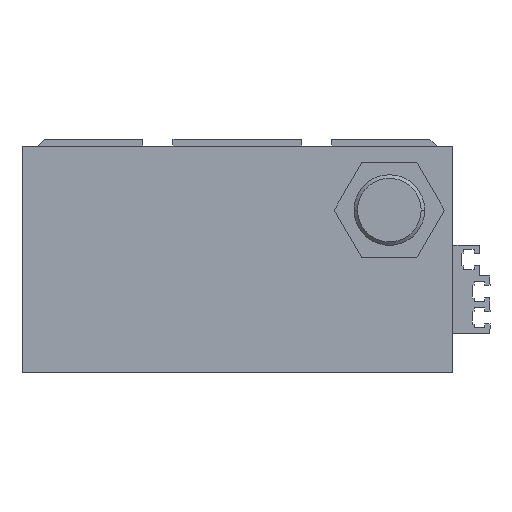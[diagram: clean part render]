
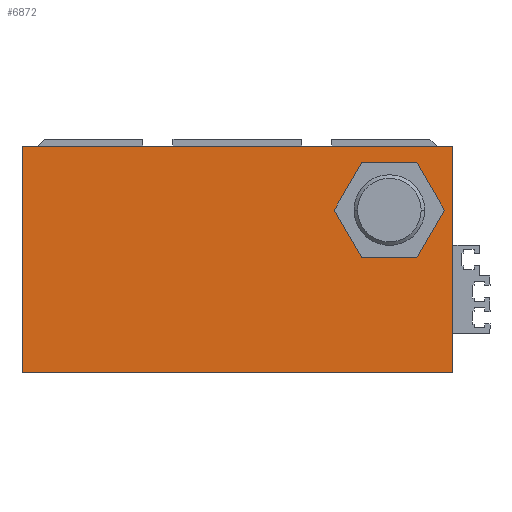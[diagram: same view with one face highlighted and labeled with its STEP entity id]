
A CAD part, front view. The second image highlights one B-rep face of the part: STEP entity #6872.
In plain terms, the highlighted planar face has unit normal (0, -1, 0).
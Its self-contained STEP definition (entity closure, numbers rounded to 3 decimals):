
#2399=CARTESIAN_POINT('',(35.206,0.,32.5));
#2400=VERTEX_POINT('',#2399);
#2407=CARTESIAN_POINT('',(50.794,0.,32.5));
#2408=VERTEX_POINT('',#2407);
#2409=CARTESIAN_POINT('',(50.794,0.,32.5));
#2410=DIRECTION('',(-1.0,0.0,0.0));
#2411=VECTOR('',#2410,15.588);
#2412=LINE('',#2409,#2411);
#2413=EDGE_CURVE('',#2408,#2400,#2412,.T.);
#2430=CARTESIAN_POINT('',(27.412,0.,46.));
#2431=VERTEX_POINT('',#2430);
#2438=CARTESIAN_POINT('',(35.206,0.,32.5));
#2439=DIRECTION('',(-0.5,0.,0.866));
#2440=VECTOR('',#2439,15.588);
#2441=LINE('',#2438,#2440);
#2442=EDGE_CURVE('',#2400,#2431,#2441,.T.);
#2454=CARTESIAN_POINT('',(35.206,0.,59.5));
#2455=VERTEX_POINT('',#2454);
#2462=CARTESIAN_POINT('',(27.412,0.,46.));
#2463=DIRECTION('',(0.5,0.,0.866));
#2464=VECTOR('',#2463,15.588);
#2465=LINE('',#2462,#2464);
#2466=EDGE_CURVE('',#2431,#2455,#2465,.T.);
#2478=CARTESIAN_POINT('',(50.794,0.,59.5));
#2479=VERTEX_POINT('',#2478);
#2486=CARTESIAN_POINT('',(35.206,0.,59.5));
#2487=DIRECTION('',(1.0,0.0,0.0));
#2488=VECTOR('',#2487,15.588);
#2489=LINE('',#2486,#2488);
#2490=EDGE_CURVE('',#2455,#2479,#2489,.T.);
#2502=CARTESIAN_POINT('',(58.588,0.,46.0));
#2503=VERTEX_POINT('',#2502);
#2510=CARTESIAN_POINT('',(50.794,0.,59.5));
#2511=DIRECTION('',(0.5,0.,-0.866));
#2512=VECTOR('',#2511,15.588);
#2513=LINE('',#2510,#2512);
#2514=EDGE_CURVE('',#2479,#2503,#2513,.T.);
#2527=CARTESIAN_POINT('',(58.588,0.,46.0));
#2528=DIRECTION('',(-0.5,0.,-0.866));
#2529=VECTOR('',#2528,15.588);
#2530=LINE('',#2527,#2529);
#2531=EDGE_CURVE('',#2503,#2408,#2530,.T.);
#2838=CARTESIAN_POINT('',(61.,0.0,0.0));
#2839=VERTEX_POINT('',#2838);
#2840=CARTESIAN_POINT('',(61.,0.,64.0));
#2841=VERTEX_POINT('',#2840);
#2842=CARTESIAN_POINT('',(61.,0.0,0.0));
#2843=DIRECTION('',(0.0,0.0,1.0));
#2844=VECTOR('',#2843,64.0);
#2845=LINE('',#2842,#2844);
#2846=EDGE_CURVE('',#2839,#2841,#2845,.T.);
#2987=CARTESIAN_POINT('',(-61.,0.0,0.0));
#2988=VERTEX_POINT('',#2987);
#2995=CARTESIAN_POINT('',(-61.,0.,64.0));
#2996=VERTEX_POINT('',#2995);
#2997=CARTESIAN_POINT('',(-61.,0.,64.0));
#2998=DIRECTION('',(0.0,0.0,-1.0));
#2999=VECTOR('',#2998,64.0);
#3000=LINE('',#2997,#2999);
#3001=EDGE_CURVE('',#2996,#2988,#3000,.T.);
#6843=CARTESIAN_POINT('',(0.0,0.0,0.0));
#6844=DIRECTION('',(0.0,-1.0,0.0));
#6845=DIRECTION('',(0.0,0.0,-1.0));
#6846=AXIS2_PLACEMENT_3D('',#6843,#6844,#6845);
#6847=PLANE('',#6846);
#6848=ORIENTED_EDGE('',*,*,#2846,.T.);
#6849=CARTESIAN_POINT('',(-61.,0.,64.0));
#6850=DIRECTION('',(1.0,0.0,0.0));
#6851=VECTOR('',#6850,122.);
#6852=LINE('',#6849,#6851);
#6853=EDGE_CURVE('',#2996,#2841,#6852,.T.);
#6854=ORIENTED_EDGE('',*,*,#6853,.F.);
#6855=ORIENTED_EDGE('',*,*,#3001,.T.);
#6856=CARTESIAN_POINT('',(61.,0.0,0.0));
#6857=DIRECTION('',(-1.0,0.0,0.0));
#6858=VECTOR('',#6857,122.);
#6859=LINE('',#6856,#6858);
#6860=EDGE_CURVE('',#2839,#2988,#6859,.T.);
#6861=ORIENTED_EDGE('',*,*,#6860,.F.);
#6862=EDGE_LOOP('',(#6848,#6854,#6855,#6861));
#6863=FACE_OUTER_BOUND('',#6862,.T.);
#6864=ORIENTED_EDGE('',*,*,#2413,.T.);
#6865=ORIENTED_EDGE('',*,*,#2442,.T.);
#6866=ORIENTED_EDGE('',*,*,#2466,.T.);
#6867=ORIENTED_EDGE('',*,*,#2490,.T.);
#6868=ORIENTED_EDGE('',*,*,#2514,.T.);
#6869=ORIENTED_EDGE('',*,*,#2531,.T.);
#6870=EDGE_LOOP('',(#6864,#6865,#6866,#6867,#6868,#6869));
#6871=FACE_BOUND('',#6870,.T.);
#6872=ADVANCED_FACE('',(#6863,#6871),#6847,.T.);
